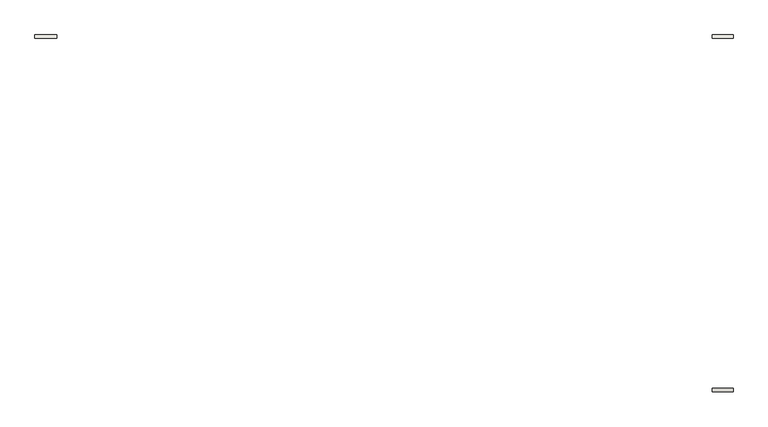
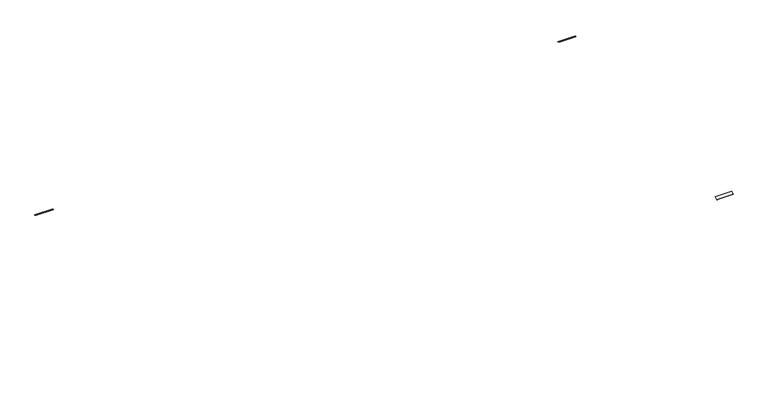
"""IFC4 building model written with IfcOpenShell, lengths in millimetres: wall geometry, M_insitu 122 G1 Marino Liso : M_insitu 122 G1 Marino Liso."""

from ifc_helpers import new_model, si_unit, frame, origin, place, context, project, spatial, polyline, outline, extrude, source, transform, mapped, element, save


def wall_3aab93d8(model_context):
    return source(origin(), model_context, "Body", "SweptSolid", [
        extrude(outline(polyline([(-25676.5970423, -91.6460892), (-25551.5970423, -162.6460892), (-25556.0420513, -170.4718092), (-25676.5970423, -101.9965744), (-25676.5970423, -91.6460892)])), frame((7429.434436, 0.0, 0.0), z_axis=(1.0, 0.0, 0.0), x_axis=(0.0, 1.0, 0.0)), (0.0, 0.0, 1.0), 780.0),
        extrude(outline(polyline([(-38327.2694962, -162.6460892), (-38202.2694962, -91.6460892), (-38202.2694962, -101.9965744), (-38322.8244872, -170.4718092), (-38327.2694962, -162.6460892)])), frame((31679.434436, 0.0, 0.0), z_axis=(1.0, 0.0, 0.0), x_axis=(0.0, 1.0, 0.0)), (0.0, 0.0, 1.0), 750.0),
        extrude(outline(polyline([(-25551.5970423, -162.6460892), (-25556.0420513, -170.4718092), (-25676.5970423, -101.9965744), (-25676.5970423, -91.6460892), (-25551.5970423, -162.6460892)])), frame((31679.434436, 0.0, 0.0), z_axis=(1.0, 0.0, 0.0), x_axis=(0.0, 1.0, 0.0)), (0.0, 0.0, 1.0), 750.0),
    ])


if __name__ == "__main__":
    model = new_model("IFC4")
    model_context = context("Model", 3, world=origin())
    ifc_project = project(units=[si_unit("LENGTHUNIT", "METRE", prefix="MILLI")], contexts=[model_context])
    site = spatial("IfcSite", under=ifc_project)
    building = spatial("IfcBuilding", under=site)
    placement = place(None, origin())
    wall_shape = wall_3aab93d8(model_context)
    element("IfcWall", 1, ObjectType="M_insitu 122 G1 Marino Liso : M_insitu 122 G1 Marino Liso", at=placement, inside=building, context=model_context, shape_type="MappedRepresentation", body=[
        mapped(wall_shape, transform((0.0, 0.0, 0.0), x_axis=(1.0, 0.0, 0.0), y_axis=(0.0, 1.0, 0.0), z_axis=(0.0, 0.0, 1.0))),
    ])
    save(model, "model.ifc")
